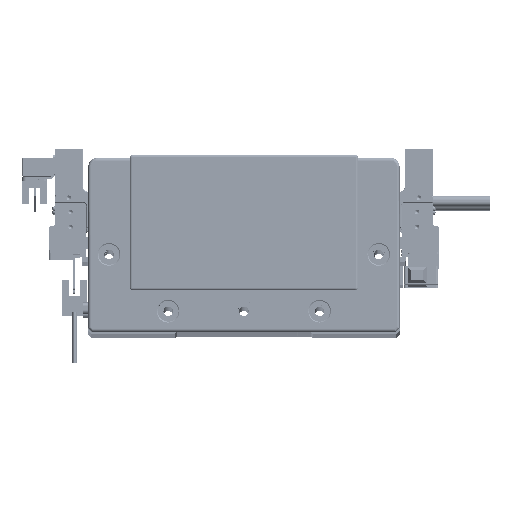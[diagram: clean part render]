
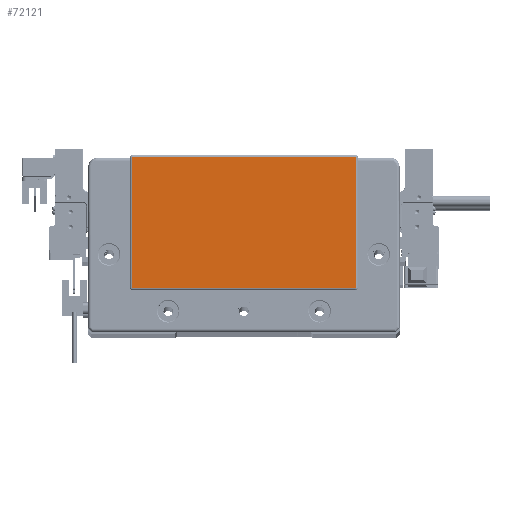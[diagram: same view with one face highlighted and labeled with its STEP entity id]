
A CAD part, top view. The second image highlights one B-rep face of the part: STEP entity #72121.
In plain terms, the highlighted planar face has unit normal (0, 0, 1) as drawn and (0, 0, -1) by its records, which use the part's own axes.
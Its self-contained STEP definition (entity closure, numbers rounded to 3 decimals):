
#196 = CARTESIAN_POINT ( 'NONE',  ( 59.25, -23.3, -2. ) ) ;
#2626 = EDGE_CURVE ( 'NONE', #94377, #57404, #95555, .T. ) ;
#3508 = CARTESIAN_POINT ( 'NONE',  ( -58.75, -23.8, -2. ) ) ;
#6860 = DIRECTION ( 'NONE',  ( -1., 0., 0. ) ) ;
#7227 = CIRCLE ( 'NONE', #66474, 0.5 ) ;
#9012 = CARTESIAN_POINT ( 'NONE',  ( -59.25, 45.3, -2. ) ) ;
#11262 = VECTOR ( 'NONE', #41336, 1000. ) ;
#11933 = ORIENTED_EDGE ( 'NONE', *, *, #40405, .T. ) ;
#12239 = VERTEX_POINT ( 'NONE', #70920 ) ;
#13531 = CARTESIAN_POINT ( 'NONE',  ( -58.75, 45.3, -2. ) ) ;
#13759 = AXIS2_PLACEMENT_3D ( 'NONE', #49083, #18362, #17827 ) ;
#14033 = CARTESIAN_POINT ( 'NONE',  ( 58.75, 45.8, -2. ) ) ;
#14331 = EDGE_CURVE ( 'NONE', #12239, #83026, #20510, .T. ) ;
#16222 = CARTESIAN_POINT ( 'NONE',  ( -58.75, -23.8, -2. ) ) ;
#16566 = EDGE_CURVE ( 'NONE', #50227, #51907, #56685, .T. ) ;
#17582 = AXIS2_PLACEMENT_3D ( 'NONE', #62646, #38286, #103902 ) ;
#17827 = DIRECTION ( 'NONE',  ( -1., 0., 0. ) ) ;
#18362 = DIRECTION ( 'NONE',  ( 0., 0., -1. ) ) ;
#18700 = LINE ( 'NONE', #196, #44825 ) ;
#18881 = LINE ( 'NONE', #3508, #58070 ) ;
#19846 = ORIENTED_EDGE ( 'NONE', *, *, #14331, .T. ) ;
#20510 = CIRCLE ( 'NONE', #13759, 0.5 ) ;
#22675 = CARTESIAN_POINT ( 'NONE',  ( -59.25, -23.3, -2. ) ) ;
#26163 = ORIENTED_EDGE ( 'NONE', *, *, #2626, .T. ) ;
#27668 = CIRCLE ( 'NONE', #98699, 0.5 ) ;
#32050 = EDGE_CURVE ( 'NONE', #57404, #64604, #7227, .T. ) ;
#32491 = DIRECTION ( 'NONE',  ( 0., -1., 0. ) ) ;
#32962 = VECTOR ( 'NONE', #102457, 1000. ) ;
#33667 = ORIENTED_EDGE ( 'NONE', *, *, #16566, .T. ) ;
#36763 = EDGE_CURVE ( 'NONE', #64604, #12239, #18700, .T. ) ;
#38286 = DIRECTION ( 'NONE',  ( 0., 0., -1. ) ) ;
#40405 = EDGE_CURVE ( 'NONE', #51907, #94377, #27668, .T. ) ;
#40785 = EDGE_CURVE ( 'NONE', #63432, #50227, #63252, .T. ) ;
#41336 = DIRECTION ( 'NONE',  ( 0., 1., 0. ) ) ;
#44825 = VECTOR ( 'NONE', #32491, 1000. ) ;
#46626 = CARTESIAN_POINT ( 'NONE',  ( 58.75, 45.3, -2. ) ) ;
#47087 = ORIENTED_EDGE ( 'NONE', *, *, #36763, .T. ) ;
#47109 = PLANE ( 'NONE',  #98525 ) ;
#47136 = DIRECTION ( 'NONE',  ( -1., 0., 0. ) ) ;
#49060 = ORIENTED_EDGE ( 'NONE', *, *, #40785, .T. ) ;
#49083 = CARTESIAN_POINT ( 'NONE',  ( 58.75, -23.3, -2. ) ) ;
#50091 = ORIENTED_EDGE ( 'NONE', *, *, #32050, .T. ) ;
#50227 = VERTEX_POINT ( 'NONE', #22675 ) ;
#51907 = VERTEX_POINT ( 'NONE', #72224 ) ;
#53780 = DIRECTION ( 'NONE',  ( 0., 0., -1. ) ) ;
#56685 = LINE ( 'NONE', #9012, #11262 ) ;
#57404 = VERTEX_POINT ( 'NONE', #59122 ) ;
#57566 = EDGE_CURVE ( 'NONE', #83026, #63432, #18881, .T. ) ;
#58070 = VECTOR ( 'NONE', #75567, 1000. ) ;
#59122 = CARTESIAN_POINT ( 'NONE',  ( 58.75, 45.8, -2. ) ) ;
#62646 = CARTESIAN_POINT ( 'NONE',  ( -58.75, -23.3, -2. ) ) ;
#63252 = CIRCLE ( 'NONE', #17582, 0.5 ) ;
#63432 = VERTEX_POINT ( 'NONE', #16222 ) ;
#64604 = VERTEX_POINT ( 'NONE', #79818 ) ;
#65432 = CARTESIAN_POINT ( 'NONE',  ( 58.75, -23.8, -2. ) ) ;
#66474 = AXIS2_PLACEMENT_3D ( 'NONE', #46626, #70994, #47136 ) ;
#68678 = DIRECTION ( 'NONE',  ( -1., 0., 0. ) ) ;
#70920 = CARTESIAN_POINT ( 'NONE',  ( 59.25, -23.3, -2. ) ) ;
#70994 = DIRECTION ( 'NONE',  ( 0., 0., -1. ) ) ;
#72121 = ADVANCED_FACE ( 'NONE', ( #94769 ), #47109, .T. ) ;
#72224 = CARTESIAN_POINT ( 'NONE',  ( -59.25, 45.3, -2. ) ) ;
#75567 = DIRECTION ( 'NONE',  ( -1., 0., 0. ) ) ;
#76177 = ORIENTED_EDGE ( 'NONE', *, *, #57566, .T. ) ;
#79422 = CARTESIAN_POINT ( 'NONE',  ( 0., 0., -2. ) ) ;
#79818 = CARTESIAN_POINT ( 'NONE',  ( 59.25, 45.3, -2. ) ) ;
#83026 = VERTEX_POINT ( 'NONE', #65432 ) ;
#90263 = CARTESIAN_POINT ( 'NONE',  ( -58.75, 45.8, -2. ) ) ;
#91445 = EDGE_LOOP ( 'NONE', ( #47087, #19846, #76177, #49060, #33667, #11933, #26163, #50091 ) ) ;
#94263 = DIRECTION ( 'NONE',  ( 0., 0., -1. ) ) ;
#94377 = VERTEX_POINT ( 'NONE', #90263 ) ;
#94769 = FACE_OUTER_BOUND ( 'NONE', #91445, .T. ) ;
#95555 = LINE ( 'NONE', #14033, #32962 ) ;
#98525 = AXIS2_PLACEMENT_3D ( 'NONE', #79422, #94263, #6860 ) ;
#98699 = AXIS2_PLACEMENT_3D ( 'NONE', #13531, #53780, #68678 ) ;
#102457 = DIRECTION ( 'NONE',  ( 1., 0., 0. ) ) ;
#103902 = DIRECTION ( 'NONE',  ( -1., 0., 0. ) ) ;
